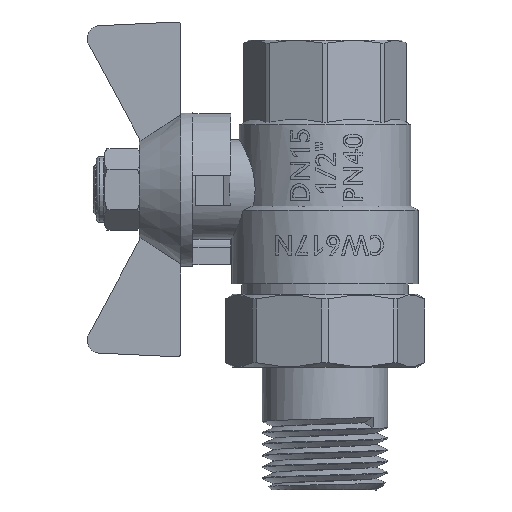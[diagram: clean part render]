
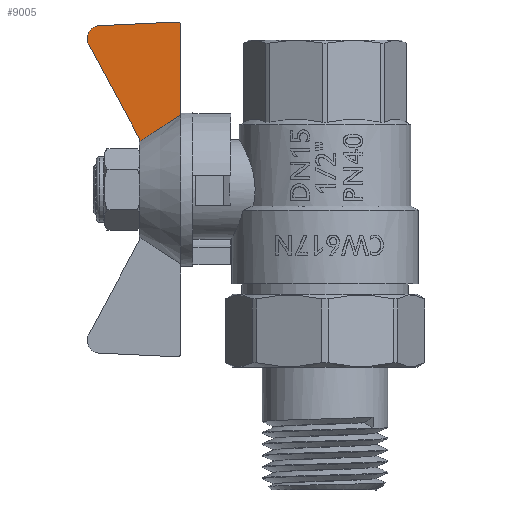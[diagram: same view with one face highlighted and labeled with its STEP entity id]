
A CAD part, left-side view. The second image highlights one B-rep face of the part: STEP entity #9005.
In plain terms, the highlighted planar face has unit normal (-1, 0, 0).
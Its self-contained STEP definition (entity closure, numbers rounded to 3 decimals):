
#66=(
BOUNDED_CURVE()
B_SPLINE_CURVE(2,(#25159,#25160,#25161),.UNSPECIFIED.,.F.,.F.)
B_SPLINE_CURVE_WITH_KNOTS((3,3),(0.,0.783),.UNSPECIFIED.)
CURVE()
GEOMETRIC_REPRESENTATION_ITEM()
RATIONAL_B_SPLINE_CURVE((1.,1.023,1.))
REPRESENTATION_ITEM('')
);
#356=PLANE('',#9620);
#632=CIRCLE('',#9621,0.5);
#633=CIRCLE('',#9622,2.);
#1202=FACE_OUTER_BOUND('',#1769,.T.);
#1769=EDGE_LOOP('',(#8183,#8184,#8185,#8186,#8187,#8188,#8189));
#2400=LINE('',#25114,#3017);
#2410=LINE('',#25165,#3027);
#2411=LINE('',#25169,#3028);
#2412=LINE('',#25170,#3029);
#3017=VECTOR('',#11376,10.);
#3027=VECTOR('',#11408,10.);
#3028=VECTOR('',#11411,10.);
#3029=VECTOR('',#11412,10.);
#4301=VERTEX_POINT('',#25108);
#4303=VERTEX_POINT('',#25112);
#4319=VERTEX_POINT('',#25158);
#4320=VERTEX_POINT('',#25162);
#4321=VERTEX_POINT('',#25164);
#4322=VERTEX_POINT('',#25166);
#4323=VERTEX_POINT('',#25168);
#5619=EDGE_CURVE('',#4301,#4303,#2400,.T.);
#5638=EDGE_CURVE('',#4301,#4319,#66,.T.);
#5639=EDGE_CURVE('',#4303,#4320,#632,.T.);
#5640=EDGE_CURVE('',#4320,#4321,#2410,.T.);
#5641=EDGE_CURVE('',#4321,#4322,#633,.T.);
#5642=EDGE_CURVE('',#4322,#4323,#2411,.T.);
#5643=EDGE_CURVE('',#4323,#4319,#2412,.T.);
#8183=ORIENTED_EDGE('',*,*,#5638,.F.);
#8184=ORIENTED_EDGE('',*,*,#5619,.T.);
#8185=ORIENTED_EDGE('',*,*,#5639,.T.);
#8186=ORIENTED_EDGE('',*,*,#5640,.T.);
#8187=ORIENTED_EDGE('',*,*,#5641,.T.);
#8188=ORIENTED_EDGE('',*,*,#5642,.T.);
#8189=ORIENTED_EDGE('',*,*,#5643,.T.);
#9005=ADVANCED_FACE('',(#1202),#356,.F.);
#9620=AXIS2_PLACEMENT_3D('',#25157,#11404,#11405);
#9621=AXIS2_PLACEMENT_3D('',#25163,#11406,#11407);
#9622=AXIS2_PLACEMENT_3D('',#25167,#11409,#11410);
#11376=DIRECTION('',(0.,0.,1.));
#11404=DIRECTION('center_axis',(1.,0.,0.));
#11405=DIRECTION('ref_axis',(0.,0.,-1.));
#11406=DIRECTION('center_axis',(-1.,0.,0.));
#11407=DIRECTION('ref_axis',(0.,0.047,0.999));
#11408=DIRECTION('',(0.,0.999,-0.047));
#11409=DIRECTION('center_axis',(-1.,0.,0.));
#11410=DIRECTION('ref_axis',(0.,0.88,-0.475));
#11411=DIRECTION('',(0.,-0.472,-0.881));
#11412=DIRECTION('',(0.,0.,-1.));
#25108=CARTESIAN_POINT('',(-3.,22.811,16.463));
#25112=CARTESIAN_POINT('',(-3.,22.811,30.654));
#25114=CARTESIAN_POINT('',(-3.,22.811,30.654));
#25157=CARTESIAN_POINT('Origin',(-3.,28.148,4.678));
#25158=CARTESIAN_POINT('',(-3.,29.393,12.213));
#25159=CARTESIAN_POINT('Ctrl Pts',(-3.,22.811,16.463));
#25160=CARTESIAN_POINT('Ctrl Pts',(-3.,26.826,13.913));
#25161=CARTESIAN_POINT('Ctrl Pts',(-3.,29.393,12.213));
#25162=CARTESIAN_POINT('',(-3.,23.335,31.153));
#25163=CARTESIAN_POINT('Origin',(-3.,23.311,30.654));
#25164=CARTESIAN_POINT('',(-3.,35.68,30.574));
#25165=CARTESIAN_POINT('',(-3.,35.68,30.574));
#25166=CARTESIAN_POINT('',(-3.,37.347,27.627));
#25167=CARTESIAN_POINT('Origin',(-3.,35.587,28.577));
#25168=CARTESIAN_POINT('',(-3.,29.393,12.788));
#25169=CARTESIAN_POINT('',(-3.,29.393,12.788));
#25170=CARTESIAN_POINT('',(-3.,29.393,-3.433));
